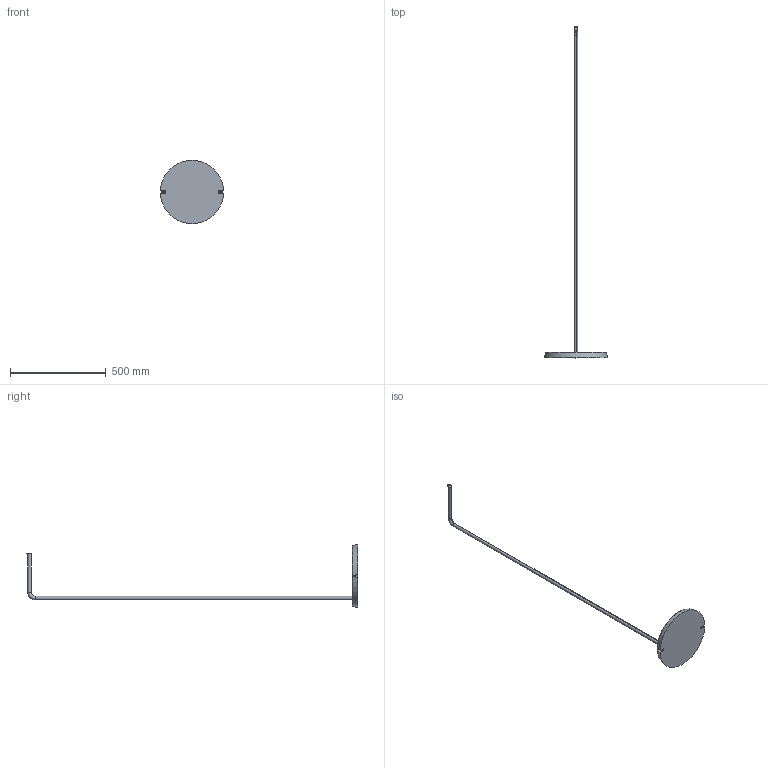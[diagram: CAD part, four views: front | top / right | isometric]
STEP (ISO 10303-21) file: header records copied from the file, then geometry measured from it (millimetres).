
FILE_DESCRIPTION((''),'2;1');
FILE_NAME('SANTORINI_FLOOR_ACCESSORY_ASM','2014-07-22T',('oftec'),(''),'PRO/ENGINEER BY PARAMETRIC TECHNOLOGY CORPORATION, 2012130','PRO/ENGINEER BY PARAMETRIC TECHNOLOGY CORPORATION, 2012130','');
FILE_SCHEMA(('CONFIG_CONTROL_DESIGN'));
Length unit declared in the file: millimetre
Products named in the file (3): 654-064; 654-075; SANTORINI_FLOOR_ACCESSORY_ASM
Assembly tree (2 placements, depth 2):
  SANTORINI_FLOOR_ACCESSORY_ASM
    654-064
    654-075
Bounding box: 329.78 x 1731 x 330 mm (x, y, z)
Volume: 2908972.6 mm3; surface area: 304314.2 mm2
Topology: 2 solids, 2 shells, 27 faces, 62 edges, 40 vertices
Faces by surface type: plane 12, cone 6, cylinder 5, torus 4
Entity records: 896 total; most frequent: CARTESIAN_POINT 186, DIRECTION 146, ORIENTED_EDGE 124, EDGE_CURVE 62, AXIS2_PLACEMENT_3D 60, VERTEX_POINT 40, EDGE_LOOP 28, CIRCLE 28
